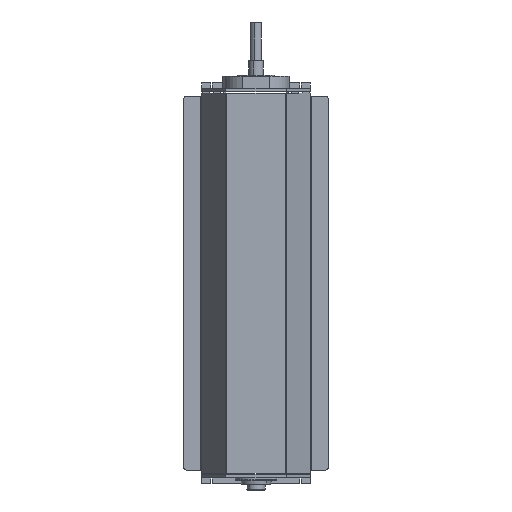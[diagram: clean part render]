
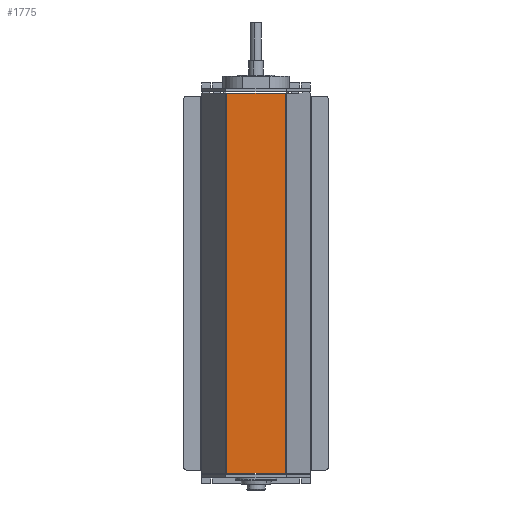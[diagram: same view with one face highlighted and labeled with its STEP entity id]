
A CAD part, front view. The second image highlights one B-rep face of the part: STEP entity #1775.
In plain terms, the highlighted planar face has unit normal (0, -1, 0).
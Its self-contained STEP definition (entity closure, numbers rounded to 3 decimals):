
#19 = LINE ( 'NONE', #16992, #14127 ) ;
#1263 = DIRECTION ( 'NONE',  ( 0., 1., 0. ) ) ;
#1604 = VECTOR ( 'NONE', #5903, 1000. ) ;
#1775 = ADVANCED_FACE ( 'NONE', ( #12045 ), #6984, .F. ) ;
#2553 = CARTESIAN_POINT ( 'NONE',  ( -48.268, 0., -315.5 ) ) ;
#2897 = EDGE_CURVE ( 'NONE', #11616, #5983, #19, .T. ) ;
#3140 = VECTOR ( 'NONE', #14509, 1000. ) ;
#4972 = ORIENTED_EDGE ( 'NONE', *, *, #11011, .T. ) ;
#5213 = LINE ( 'NONE', #15416, #1604 ) ;
#5358 = CARTESIAN_POINT ( 'NONE',  ( -50., 0., 315.5 ) ) ;
#5638 = AXIS2_PLACEMENT_3D ( 'NONE', #5358, #1263, #12512 ) ;
#5903 = DIRECTION ( 'NONE',  ( 0., 0., -1. ) ) ;
#5983 = VERTEX_POINT ( 'NONE', #2553 ) ;
#6004 = ORIENTED_EDGE ( 'NONE', *, *, #2897, .T. ) ;
#6984 = PLANE ( 'NONE',  #5638 ) ;
#7862 = EDGE_CURVE ( 'NONE', #11616, #17211, #12822, .T. ) ;
#8732 = CARTESIAN_POINT ( 'NONE',  ( 48.268, 0., -315.5 ) ) ;
#9780 = EDGE_LOOP ( 'NONE', ( #4972, #16517, #11427, #6004 ) ) ;
#11011 = EDGE_CURVE ( 'NONE', #5983, #14752, #17705, .T. ) ;
#11427 = ORIENTED_EDGE ( 'NONE', *, *, #7862, .F. ) ;
#11616 = VERTEX_POINT ( 'NONE', #13602 ) ;
#12045 = FACE_OUTER_BOUND ( 'NONE', #9780, .T. ) ;
#12395 = VECTOR ( 'NONE', #15119, 1000. ) ;
#12512 = DIRECTION ( 'NONE',  ( -1., 0., 0. ) ) ;
#12822 = LINE ( 'NONE', #13719, #12395 ) ;
#13517 = CARTESIAN_POINT ( 'NONE',  ( 48.268, 0., 315.5 ) ) ;
#13602 = CARTESIAN_POINT ( 'NONE',  ( -48.268, 0., 315.5 ) ) ;
#13695 = EDGE_CURVE ( 'NONE', #17211, #14752, #5213, .T. ) ;
#13719 = CARTESIAN_POINT ( 'NONE',  ( -50., 0., 315.5 ) ) ;
#14127 = VECTOR ( 'NONE', #17216, 1000. ) ;
#14509 = DIRECTION ( 'NONE',  ( 1., 0., 0. ) ) ;
#14752 = VERTEX_POINT ( 'NONE', #8732 ) ;
#15119 = DIRECTION ( 'NONE',  ( 1., 0., 0. ) ) ;
#15416 = CARTESIAN_POINT ( 'NONE',  ( 48.268, 0., 315.5 ) ) ;
#15900 = CARTESIAN_POINT ( 'NONE',  ( -50., 0., -315.5 ) ) ;
#16517 = ORIENTED_EDGE ( 'NONE', *, *, #13695, .F. ) ;
#16992 = CARTESIAN_POINT ( 'NONE',  ( -48.268, 0., 315.5 ) ) ;
#17211 = VERTEX_POINT ( 'NONE', #13517 ) ;
#17216 = DIRECTION ( 'NONE',  ( 0., 0., -1. ) ) ;
#17705 = LINE ( 'NONE', #15900, #3140 ) ;
